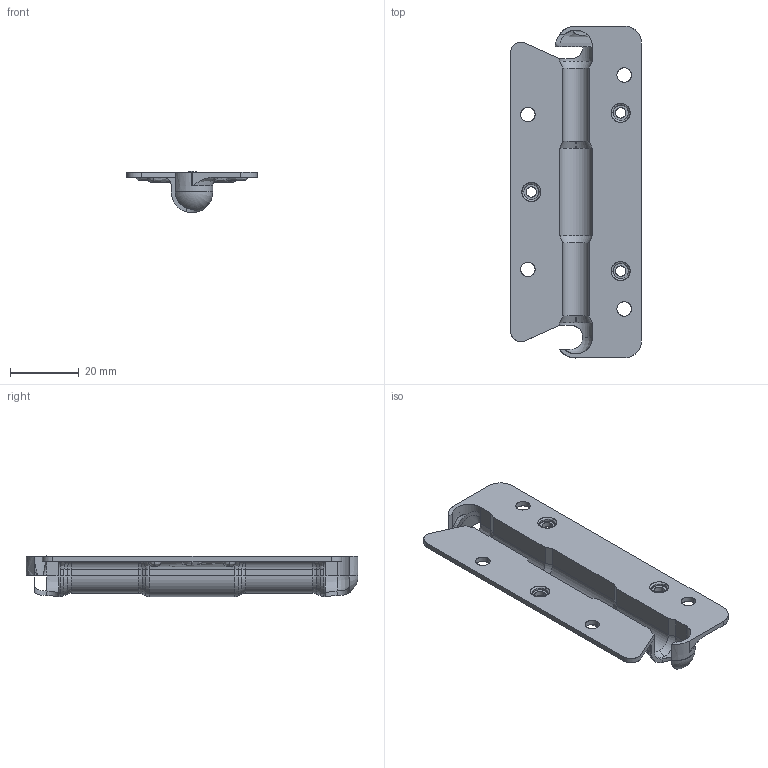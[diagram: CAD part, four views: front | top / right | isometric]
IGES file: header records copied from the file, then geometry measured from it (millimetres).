
Start section: SolidWorks IGES FILE using analytic representation for surfaces
Global section: file name: C:\Documents and Settings\lecoutey\Bureau\PR 1305\305.010.00.IGS; native system: SolidWorks 2004 by SolidWorks Corporation; preprocessor: Version 5.3; author: lecoutey; date: 050408.172043; units: millimetre
Bounding box: 38 x 96.5 x 11.99 mm (x, y, z)
Surface area: 10129.5 mm2 (no closed solid volume)
Topology: 0 solids, 0 shells, 224 faces, 2331 edges, 2318 vertices
Faces by surface type: revolution 114, bspline 110
